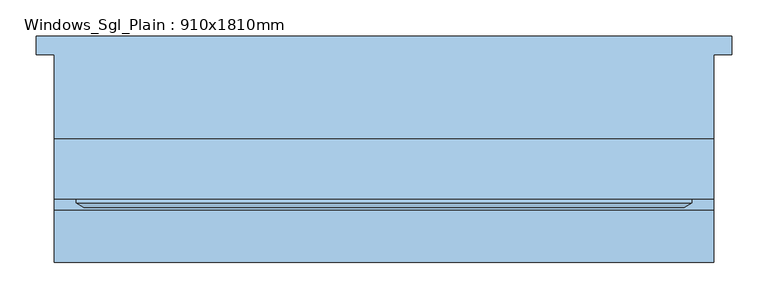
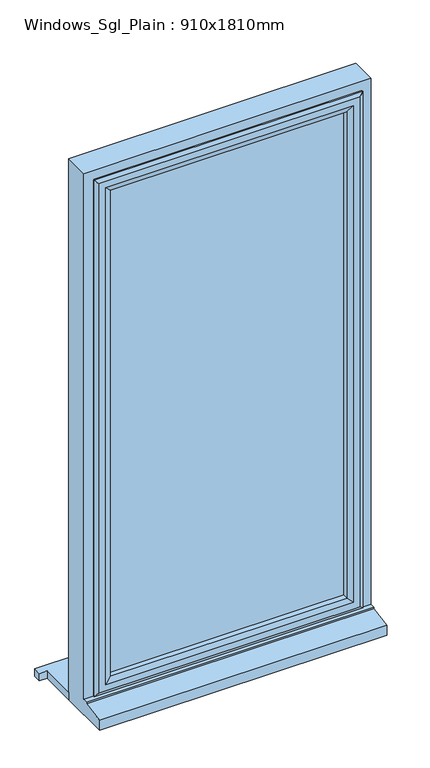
"""IFC4 building model written with IfcOpenShell, lengths in millimetres: window geometry, Windows_Sgl_Plain : 910x1810mm."""

from ifc_helpers import new_model, si_unit, frame, origin, place, context, project, spatial, polyline, outline, extrude, faceted_brep, source, transform, mapped, element, save


def windows_sgl_plain_910x1810mm_c05862ca(model_context):
    return source(origin(), model_context, "Body", "SolidModel", [
        extrude(outline(polyline([(-480.0, 141.5434322), (480.0, 141.5434322), (480.0, 116.5434322), (455.0, 116.5434322), (455.0, -0.4565678), (-455.0, -0.4565678), (-455.0, 116.5434322), (-480.0, 116.5434322), (-480.0, 141.5434322)])), frame((0.0, 0.0, 300.0), z_axis=(0.0, 0.0, 1.0), x_axis=(1.0, 0.0, 0.0)), (0.0, 0.0, 1.0), 25.0),
        faceted_brep([(-455.0, -0.4565678, 300.0), (-455.0, -0.4565678, 2110.0), (455.0, -0.4565678, 2110.0), (455.0, -0.4565678, 300.0), (-395.0, -0.4565678, 2050.0), (-395.0, -0.4565678, 375.0), (395.0, -0.4565678, 375.0), (395.0, -0.4565678, 2050.0), (-455.0, -170.9565678, 300.0), (-455.0, -170.9565678, 333.8088847), (-455.0, -98.4565678, 344.7449676), (-455.0, -98.4565678, 349.68767), (-455.0, -83.4565678, 351.0), (-455.0, -83.4565678, 2110.0), (455.0, -83.4565678, 351.0), (455.0, -83.4565678, 2110.0), (-415.0, -83.4565678, 2070.0), (415.0, -83.4565678, 2070.0), (415.0, -83.4565678, 363.0), (-415.0, -83.4565678, 363.0), (-415.0, -18.4565678, 363.0), (-415.0, -18.4565678, 2070.0), (415.0, -18.4565678, 363.0), (415.0, -18.4565678, 2070.0), (-395.0, -18.4565678, 2050.0), (395.0, -18.4565678, 2050.0), (395.0, -18.4565678, 375.0), (-395.0, -18.4565678, 375.0), (455.0, -98.4565678, 349.68767), (455.0, -98.4565678, 344.7449676), (455.0, -170.9565678, 333.8088847), (455.0, -170.9565678, 300.0)], [[[0, 1, 2, 3], [4, 5, 6, 7]], [[0, 8, 9, 10, 11, 12, 13, 1]], [[12, 14, 15, 13], [16, 17, 18, 19]], [[19, 20, 21, 16]], [[21, 20, 22, 23], [24, 25, 26, 27]], [[24, 27, 5, 4]], [[1, 13, 15, 2]], [[16, 21, 23, 17]], [[7, 25, 24, 4]], [[14, 28, 29, 30, 31, 3, 2, 15]], [[17, 23, 22, 18]], [[7, 6, 26, 25]], [[31, 8, 0, 3]], [[30, 9, 8, 31]], [[29, 10, 9, 30]], [[28, 11, 10, 29]], [[14, 12, 11, 28]], [[20, 19, 18, 22]], [[5, 27, 26, 6]]]),
        extrude(outline(polyline([(385.0, -47.4565678), (385.0, -71.4565678), (-385.0, -71.4565678), (-385.0, -47.4565678), (385.0, -47.4565678)])), frame((0.0, 0.0, 393.0), z_axis=(0.0, 0.0, 1.0), x_axis=(1.0, 0.0, 0.0)), (0.0, 0.0, 1.0), 1647.0),
        faceted_brep([(-425.0, -83.4565678, 2080.0), (-425.0, -83.4565678, 353.0), (-425.0, -89.2300705, 353.0), (-425.0, -89.2300705, 2080.0), (-415.0, -18.4565678, 2070.0), (-415.0, -18.4565678, 363.0), (-415.0, -83.4565678, 363.0), (-415.0, -83.4565678, 2070.0), (-375.0, -32.9494677, 2030.0), (-375.0, -32.9494677, 403.0), (-385.1480377, -18.4565678, 392.8519623), (-385.1480377, -18.4565678, 2040.1480377), (-375.0, -47.4565678, 2030.0), (-375.0, -47.4565678, 403.0), (-385.0, -71.4565678, 2040.0), (-385.0, -71.4565678, 393.0), (-385.0, -47.4565678, 393.0), (-385.0, -47.4565678, 2040.0), (-375.0, -89.2300705, 2030.0), (-375.0, -89.2300705, 403.0), (-375.0, -71.4565678, 403.0), (-375.0, -71.4565678, 2030.0), (-392.4457548, -95.0035732, 2047.4457548), (-392.4457548, -95.0035732, 385.5542452), (-414.2153903, -95.0035732, 363.7846097), (-414.2153903, -95.0035732, 2069.2153903), (425.0, -83.4565678, 353.0), (425.0, -89.2300705, 353.0), (415.0, -18.4565678, 363.0), (415.0, -83.4565678, 363.0), (375.0, -32.9494677, 403.0), (385.1480377, -18.4565678, 392.8519623), (375.0, -47.4565678, 403.0), (385.0, -71.4565678, 393.0), (385.0, -47.4565678, 393.0), (375.0, -89.2300705, 403.0), (375.0, -71.4565678, 403.0), (392.4457548, -95.0035732, 385.5542452), (414.2153903, -95.0035732, 363.7846097), (425.0, -83.4565678, 2080.0), (425.0, -89.2300705, 2080.0), (415.0, -18.4565678, 2070.0), (415.0, -83.4565678, 2070.0), (375.0, -32.9494677, 2030.0), (385.1480377, -18.4565678, 2040.1480377), (375.0, -47.4565678, 2030.0), (385.0, -71.4565678, 2040.0), (385.0, -47.4565678, 2040.0), (375.0, -89.2300705, 2030.0), (375.0, -71.4565678, 2030.0), (392.4457548, -95.0035732, 2047.4457548), (414.2153903, -95.0035732, 2069.2153903)], [[[0, 1, 2, 3]], [[4, 5, 6, 7]], [[8, 9, 10, 11]], [[12, 13, 9, 8]], [[14, 15, 16, 17]], [[18, 19, 20, 21]], [[22, 23, 19, 18]], [[3, 2, 24, 25]], [[1, 26, 27, 2]], [[5, 28, 29, 6]], [[9, 30, 31, 10]], [[13, 32, 30, 9]], [[15, 33, 34, 16]], [[19, 35, 36, 20]], [[23, 37, 35, 19]], [[2, 27, 38, 24]], [[26, 39, 40, 27]], [[28, 41, 42, 29]], [[30, 43, 44, 31]], [[32, 45, 43, 30]], [[33, 46, 47, 34]], [[35, 48, 49, 36]], [[37, 50, 48, 35]], [[27, 40, 51, 38]], [[39, 0, 3, 40]], [[1, 0, 39, 26], [7, 6, 29, 42]], [[41, 4, 7, 42]], [[5, 4, 41, 28], [11, 10, 31, 44]], [[43, 8, 11, 44]], [[45, 12, 8, 43]], [[17, 16, 34, 47], [13, 12, 45, 32]], [[46, 14, 17, 47]], [[15, 14, 46, 33], [21, 20, 36, 49]], [[48, 18, 21, 49]], [[50, 22, 18, 48]], [[25, 24, 38, 51], [23, 22, 50, 37]], [[40, 3, 25, 51]]]),
    ])


if __name__ == "__main__":
    model = new_model("IFC4")
    model_context = context("Model", 3, world=origin())
    ifc_project = project(units=[si_unit("LENGTHUNIT", "METRE", prefix="MILLI")], contexts=[model_context])
    site = spatial("IfcSite", under=ifc_project)
    building = spatial("IfcBuilding", under=site)
    placement = place(None, origin())
    windows_sgl_plain_910x1810mm_shape = windows_sgl_plain_910x1810mm_c05862ca(model_context)
    element("IfcWindow", 1, ObjectType="Windows_Sgl_Plain : 910x1810mm", at=placement, inside=building, context=model_context, shape_type="MappedRepresentation", body=[
        mapped(windows_sgl_plain_910x1810mm_shape, transform((0.0, 0.0, 0.0), x_axis=(1.0, 0.0, 0.0), y_axis=(0.0, 1.0, 0.0), z_axis=(0.0, 0.0, 1.0))),
    ])
    save(model, "model.ifc")
